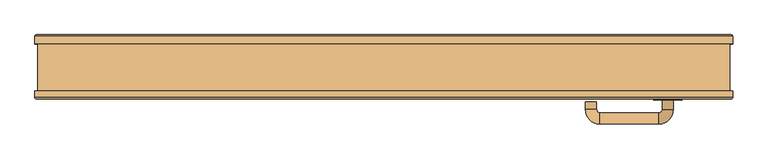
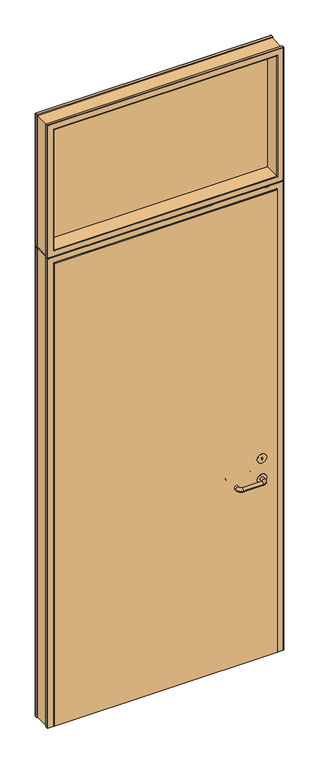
"""IFC4 building model written with IfcOpenShell, lengths in millimetres: door geometry, WOOD LINE_GLASPARTI & ELLUCKA : WOOD LINE_GLASPARTI & ELLUCKA."""

import ifcopenshell
import ifcopenshell.guid

model = None  # the IFC model being written
_history = None  # IfcOwnerHistory: only IFC2X3 demands one
_inside = {}  # id of a spatial element -> (the spatial element, [elements in it])
_under = {}  # id of a project, library or spatial element -> (it, [spatial elements below it])
_declared = {}  # id of a project -> (the project, [libraries it declares])
_typed = {}  # id of a type object -> (the type object, [elements of that type])
_made_of = {}  # id of a material, layer set ... -> (it, [elements and type objects made of it])


def new_model(schema):
    """Start an empty IFC model of exactly this schema.

    Asked for "IFC4X3", IfcOpenShell would pick the latest addendum, in which some entities
    have other attributes; the version numbers below select the first issue.
    IFC2X3 requires an IfcOwnerHistory on every rooted entity: one is made here for all.
    """
    global model, _history
    if schema == "IFC4X3":
        model = ifcopenshell.file(schema_version=(4, 3, 0, 0))
    else:
        model = ifcopenshell.file(schema=schema)
    _inside.clear()
    _under.clear()
    _declared.clear()
    _typed.clear()
    _made_of.clear()
    _history = None
    if model.schema == "IFC2X3":
        org = make("IfcOrganization", Name="unknown")
        user = make(
            "IfcPersonAndOrganization",
            ThePerson=make("IfcPerson", FamilyName="unknown"),
            TheOrganization=org,
        )
        app = make(
            "IfcApplication",
            ApplicationDeveloper=org,
            Version="unknown",
            ApplicationFullName="unknown",
            ApplicationIdentifier="unknown",
        )
        _history = make(
            "IfcOwnerHistory",
            OwningUser=user,
            OwningApplication=app,
            ChangeAction="ADDED",
            CreationDate=0,
        )
    return model


def make(cls, **values):
    """One entity of the class cls with the attributes given. An attribute that is None is left unset."""
    return model.create_entity(
        cls, **{name: value for name, value in values.items() if value is not None}
    )


def rooted(cls, **values):
    """An entity with a GlobalId (a new one), such as an element, a storey or a relation."""
    return make(cls, GlobalId=ifcopenshell.guid.new(), OwnerHistory=_history, **values)


def si_unit(unit_type, name, prefix=None):
    """IfcSIUnit, for example si_unit("LENGTHUNIT", "METRE", prefix="MILLI")."""
    return make("IfcSIUnit", UnitType=unit_type, Prefix=prefix, Name=name)


def assignment(units):
    """IfcUnitAssignment: the units of a project."""
    return None if units is None else make("IfcUnitAssignment", Units=units)


def point(xyz):
    """IfcCartesianPoint."""
    return None if xyz is None else make("IfcCartesianPoint", Coordinates=xyz)


def direction(xyz):
    """IfcDirection."""
    return None if xyz is None else make("IfcDirection", DirectionRatios=xyz)


def frame(location, z_axis=None, x_axis=None):
    """IfcAxis2Placement3D, a coordinate frame: its origin and axes. An axis left out is left unset."""
    return make(
        "IfcAxis2Placement3D",
        Location=point(location),
        Axis=direction(z_axis),
        RefDirection=direction(x_axis),
    )


def frame_2d(location, x_axis=None):
    """IfcAxis2Placement2D, a coordinate frame in the plane: its origin and x axis."""
    return make(
        "IfcAxis2Placement2D", Location=point(location), RefDirection=direction(x_axis)
    )


def origin():
    """The frame at (0, 0, 0) with its axes left unset."""
    return frame((0.0, 0.0, 0.0))


def origin_with_axes():
    """The frame at (0, 0, 0) with the z axis (0, 0, 1) and the x axis (1, 0, 0) written out."""
    return frame((0.0, 0.0, 0.0), z_axis=(0.0, 0.0, 1.0), x_axis=(1.0, 0.0, 0.0))


def place(relative_to, where):
    """IfcLocalPlacement: puts the frame where relative to a parent placement (None: the world)."""
    return make(
        "IfcLocalPlacement", PlacementRelTo=relative_to, RelativePlacement=where
    )


def context(
    kind, dimensions, precision=None, world=None, true_north=None, identifier=None
):
    """IfcGeometricRepresentationContext, for example the 3D "Model" context."""
    return make(
        "IfcGeometricRepresentationContext",
        ContextIdentifier=identifier,
        ContextType=kind,
        CoordinateSpaceDimension=dimensions,
        Precision=precision,
        WorldCoordinateSystem=world,
        TrueNorth=true_north,
    )


def project(units=None, contexts=None):
    """IfcProject with its units and contexts."""
    return rooted(
        "IfcProject",
        Name="project",
        RepresentationContexts=contexts,
        UnitsInContext=assignment(units),
    )


def spatial(cls, under=None, at=None, **own):
    """A site, building, storey or space (cls), placed at a placement, below another one or the project."""
    s = rooted(cls, ObjectPlacement=at, **own)
    if under is not None:
        _under.setdefault(under.id(), (under, []))[1].append(s)
    return s


def polyline(points):
    """IfcPolyline through the points."""
    return make("IfcPolyline", Points=[point(p) for p in points])


def circle_curve(where, radius):
    """IfcCircle in the frame where."""
    return make("IfcCircle", Position=where, Radius=radius)


def ellipse_curve(where, semi_axis1, semi_axis2):
    """IfcEllipse in the frame where."""
    return make(
        "IfcEllipse", Position=where, SemiAxis1=semi_axis1, SemiAxis2=semi_axis2
    )


def trimmed(basis, trim1, trim2, sense, master):
    """IfcTrimmedCurve: the piece of a basis curve between two trims."""
    return make(
        "IfcTrimmedCurve",
        BasisCurve=basis,
        Trim1=trim1,
        Trim2=trim2,
        SenseAgreement=sense,
        MasterRepresentation=master,
    )


def segment(curve, same_sense, transition):
    """IfcCompositeCurveSegment."""
    return make(
        "IfcCompositeCurveSegment",
        Transition=transition,
        SameSense=same_sense,
        ParentCurve=curve,
    )


def composite_curve(segments, self_intersect=None):
    """IfcCompositeCurve: segments joined end to end."""
    return make("IfcCompositeCurve", Segments=segments, SelfIntersect=self_intersect)


def outline(outer, holes=None, kind="AREA"):
    """IfcArbitraryClosedProfileDef: a profile drawn as a closed curve; with holes, ...WithVoids."""
    if holes is None:
        return make("IfcArbitraryClosedProfileDef", ProfileType=kind, OuterCurve=outer)
    return make(
        "IfcArbitraryProfileDefWithVoids",
        ProfileType=kind,
        OuterCurve=outer,
        InnerCurves=holes,
    )


def extrude(swept, where, along, depth):
    """IfcExtrudedAreaSolid: the profile swept, set in the frame where, extruded along a direction by depth."""
    return make(
        "IfcExtrudedAreaSolid",
        SweptArea=swept,
        Position=where,
        ExtrudedDirection=direction(along),
        Depth=depth,
    )


def shape(context_of_items, identifier, shape_type, items):
    """IfcShapeRepresentation: the items that make up one representation, for example the "Body"."""
    return make(
        "IfcShapeRepresentation",
        ContextOfItems=context_of_items,
        RepresentationIdentifier=identifier,
        RepresentationType=shape_type,
        Items=items,
    )


def source(mapping_origin, context_of_items, identifier, shape_type, items):
    """IfcRepresentationMap: a shape defined once, which mapped items show again and again."""
    return make(
        "IfcRepresentationMap",
        MappingOrigin=mapping_origin,
        MappedRepresentation=shape(context_of_items, identifier, shape_type, items),
    )


def transform(
    local_origin,
    x_axis=None,
    y_axis=None,
    z_axis=None,
    scale=None,
    scale2=None,
    scale3=None,
    uniform=True,
):
    """IfcCartesianTransformationOperator3D, or its non-uniform kind. x_axis, y_axis, z_axis: its Axis1, 2, 3."""
    if uniform:
        return make(
            "IfcCartesianTransformationOperator3D",
            Axis1=direction(x_axis),
            Axis2=direction(y_axis),
            LocalOrigin=point(local_origin),
            Scale=scale,
            Axis3=direction(z_axis),
        )
    return make(
        "IfcCartesianTransformationOperator3DnonUniform",
        Axis1=direction(x_axis),
        Axis2=direction(y_axis),
        LocalOrigin=point(local_origin),
        Scale=scale,
        Axis3=direction(z_axis),
        Scale2=scale2,
        Scale3=scale3,
    )


def mapped(mapping_source, mapping_target):
    """IfcMappedItem: shows the shape of a source again, moved by a transform."""
    return make(
        "IfcMappedItem", MappingSource=mapping_source, MappingTarget=mapping_target
    )


def made_of(thing, what):
    """Note that an element or type object is made of a material, layer set ...; save() writes the relation."""
    if what is not None:
        _made_of.setdefault(what.id(), (what, []))[1].append(thing)
    return thing


def element(
    cls,
    number,
    at=None,
    inside=None,
    cuts=None,
    type_object=None,
    material=None,
    context=None,
    identifier="Body",
    shape_type=None,
    held_by="IfcProductDefinitionShape",
    body=None,
    shapes=None,
    **own,
):
    """One element of the class cls, such as IfcWall. Its Tag is "e" and its number.

    at: its placement. inside: the storey or other place that contains it. cuts: it is an
    opening in that element (IfcRelVoidsElement). A single representation is given by context,
    identifier, shape_type and body (its items); several are given by shapes. held_by: the class
    of the entity that holds the representations. save() writes the other relations.
    """
    e = rooted(cls, Tag="e%d" % number, ObjectPlacement=at, **own)
    if body is not None:
        shapes = [shape(context, identifier, shape_type, body)]
    if shapes is not None:
        e.Representation = make(held_by, Representations=shapes)
    if inside is not None:
        _inside.setdefault(inside.id(), (inside, []))[1].append(e)
    if cuts is not None:
        rooted(
            "IfcRelVoidsElement", RelatingBuildingElement=cuts, RelatedOpeningElement=e
        )
    if type_object is not None:
        _typed.setdefault(type_object.id(), (type_object, []))[1].append(e)
    return made_of(e, material)


def aggregate(whole, parts):
    """IfcRelAggregates: a whole, such as a stair, and the parts it consists of."""
    return rooted("IfcRelAggregates", RelatingObject=whole, RelatedObjects=parts)


def save(model, path):
    """Write the relations noted so far, then the file.

    IfcRelAggregates (storeys below a building ...), IfcRelContainedInSpatialStructure (elements
    in a storey), IfcRelDefinesByType, IfcRelAssociatesMaterial and IfcRelDeclares: one each for
    every whole, place, type object, material and project.
    """
    for whole, parts in _under.values():
        aggregate(whole, parts)
    for where, things in _inside.values():
        rooted(
            "IfcRelContainedInSpatialStructure",
            RelatedElements=things,
            RelatingStructure=where,
        )
    for kind, things in _typed.values():
        rooted("IfcRelDefinesByType", RelatedObjects=things, RelatingType=kind)
    for what, things in _made_of.values():
        rooted("IfcRelAssociatesMaterial", RelatedObjects=things, RelatingMaterial=what)
    for by, libraries in _declared.values():
        rooted("IfcRelDeclares", RelatingContext=by, RelatedDefinitions=libraries)
    model.write(path)


def plane_surface(at):
    """IfcPlane: the flat surface through the origin of the frame at, square to its z axis."""
    return make("IfcPlane", Position=at)


def cylinder_surface(at, radius):
    """IfcCylindricalSurface: all points at the distance radius from the z axis of the frame at."""
    return make("IfcCylindricalSurface", Position=at, Radius=radius)


def revolved_surface(curve, axis_point, axis_direction):
    """IfcSurfaceOfRevolution: the curve turned about the line through axis_point along axis_direction."""
    return make(
        "IfcSurfaceOfRevolution",
        SweptCurve=make("IfcArbitraryOpenProfileDef", ProfileType="CURVE", Curve=curve),
        AxisPosition=make("IfcAxis1Placement", Location=point(axis_point), Axis=direction(axis_direction)),
    )


def advanced_brep(points, edges, surfaces, faces):
    """IfcAdvancedBrep: a solid bounded by faces that lie on surfaces and meet in shared edges.

    An edge is (start, end): straight between two places in points (the first is 0);
    or (start, end, curve); or (start, end, curve, False) where it runs against its curve.
    A face is (place in surfaces, loops), or (place, loops, False) where it looks against
    its surface's normal. A loop lists edges by number (the first is 1), with a minus sign
    where the edge is run from its end to its start. The first loop is the outer one.
    """
    corners = [point(p) for p in points]
    vertices = [make("IfcVertexPoint", VertexGeometry=c) for c in corners]
    made = []
    for start, end, *more in edges:
        made.append(
            make(
                "IfcEdgeCurve",
                EdgeStart=vertices[start],
                EdgeEnd=vertices[end],
                EdgeGeometry=more[0] if more else make("IfcPolyline", Points=[corners[start], corners[end]]),
                SameSense=more[1] if len(more) > 1 else True,
            )
        )
    hull = []
    for where, loops, *sense in faces:
        bounds = []
        for j, loop in enumerate(loops):
            ring = [make("IfcOrientedEdge", EdgeElement=made[abs(k) - 1], Orientation=k > 0) for k in loop]
            bounds.append(
                make(
                    "IfcFaceOuterBound" if j == 0 else "IfcFaceBound",
                    Bound=make("IfcEdgeLoop", EdgeList=ring),
                    Orientation=True,
                )
            )
        hull.append(make("IfcAdvancedFace", Bounds=bounds, FaceSurface=surfaces[where], SameSense=sense[0] if sense else True))
    return make("IfcAdvancedBrep", Outer=make("IfcClosedShell", CfsFaces=hull))


def door_6222ef06(model_context):
    return source(origin(), model_context, "Body", "SolidModel", [
        extrude(outline(polyline([(480.4836936, 76.5), (480.4836936, 72.5), (-480.4836936, 72.5), (-480.4836936, 76.5), (480.4836936, 76.5)])), frame((0.0, 0.0, 2119.5163064), z_axis=(0.0, 0.0, 1.0), x_axis=(1.0, 0.0, 0.0)), (0.0, 0.0, 1.0), 556.9673873),
        advanced_brep(
        [(399.0, 5.5388046, 800.0), (415.0, 5.5388046, 800.0), (399.0, -14.9611954, 800.0), (415.0, -14.9611954, 800.0), (305.0, -4.4611954, 800.0), (289.0, -4.4611954, 800.0), (394.0, -35.9611954, 800.0), (394.0, -19.9611954, 800.0), (310.0, -19.9611954, 800.0), (310.0, -35.9611954, 800.0), (289.0, -14.9611954, 800.0), (305.0, -14.9611954, 800.0)],
        [
            (0, 1, circle_curve(frame((407.0, 5.5388046, 800.0), z_axis=(0.0, 1.0, 0.0), x_axis=(1.0, 0.0, 0.0)), 8.0)),
            (1, 0, circle_curve(frame((407.0, 5.5388046, 800.0), z_axis=(0.0, 1.0, 0.0), x_axis=(1.0, 0.0, 0.0)), 8.0)),
            (0, 2),
            (2, 3, circle_curve(frame((407.0, -14.9611954, 800.0), z_axis=(0.0, 1.0, 0.0), x_axis=(1.0, 0.0, 0.0)), 8.0)),
            (3, 1),
            (3, 2, circle_curve(frame((407.0, -14.9611954, 800.0), z_axis=(0.0, 1.0, 0.0), x_axis=(1.0, 0.0, 0.0)), 8.0)),
            (4, 5, circle_curve(frame((297.0, -4.4611954, 800.0), z_axis=(0.0, 1.0, 0.0), x_axis=(-1.0, 0.0, 0.0)), 8.0)),
            (5, 4, circle_curve(frame((297.0, -4.4611954, 800.0), z_axis=(0.0, 1.0, 0.0), x_axis=(-1.0, 0.0, 0.0)), 8.0)),
            (6, 3, circle_curve(frame((394.0, -14.9611954, 800.0), z_axis=(0.0, 0.0, 1.0), x_axis=(1.0, 0.0, 0.0)), 21.0)),
            (2, 7, circle_curve(frame((394.0, -14.9611954, 800.0), z_axis=(0.0, 0.0, -1.0), x_axis=(1.0, 0.0, 0.0)), 5.0)),
            (7, 6, circle_curve(frame((394.0, -27.9611954, 800.0), z_axis=(1.0, 0.0, 0.0), x_axis=(0.0, -1.0, 0.0)), 8.0)),
            (6, 7, circle_curve(frame((394.0, -27.9611954, 800.0), z_axis=(1.0, 0.0, 0.0), x_axis=(0.0, -1.0, 0.0)), 8.0)),
            (7, 8),
            (8, 9, circle_curve(frame((310.0, -27.9611954, 800.0), z_axis=(1.0, 0.0, 0.0), x_axis=(0.0, -1.0, 0.0)), 8.0)),
            (9, 6),
            (9, 8, circle_curve(frame((310.0, -27.9611954, 800.0), z_axis=(1.0, 0.0, 0.0), x_axis=(0.0, -1.0, 0.0)), 8.0)),
            (10, 9, circle_curve(frame((310.0, -14.9611954, 800.0), z_axis=(0.0, 0.0, 1.0), x_axis=(0.0, -1.0, 0.0)), 21.0)),
            (8, 11, circle_curve(frame((310.0, -14.9611954, 800.0), z_axis=(0.0, 0.0, -1.0), x_axis=(0.0, -1.0, 0.0)), 5.0)),
            (11, 10, circle_curve(frame((297.0, -14.9611954, 800.0), z_axis=(0.0, -1.0, 0.0), x_axis=(-1.0, 0.0, 0.0)), 8.0)),
            (10, 11, circle_curve(frame((297.0, -14.9611954, 800.0), z_axis=(0.0, -1.0, 0.0), x_axis=(-1.0, 0.0, 0.0)), 8.0)),
            (11, 4),
            (5, 10),
        ],
        [
            plane_surface(frame((407.0, 5.5388046, 0.0), z_axis=(0.0, 1.0, 0.0), x_axis=(0.0, 0.0, 1.0))),
            cylinder_surface(frame((407.0, 5.5388046, 800.0), z_axis=(0.0, 1.0, 0.0), x_axis=(1.0, 0.0, 0.0)), 8.0),
            plane_surface(frame((297.0, -4.4611954, 0.0), z_axis=(0.0, 1.0, 0.0), x_axis=(0.0, 0.0, 1.0))),
            revolved_surface(trimmed(ellipse_curve(frame((407.0, -14.9611954, 800.0), z_axis=(0.0, 1.0, 0.0), x_axis=(1.0, 0.0, 0.0)), 8.0, 8.0), [point((399.0, -14.9611954, 800.0))], [point((415.0, -14.9611954, 800.0))], True, "CARTESIAN"), (394.0, -14.9611954, 0.0), (0.0, 0.0, -1.0)),
            revolved_surface(trimmed(ellipse_curve(frame((407.0, -14.9611954, 800.0), z_axis=(0.0, 1.0, 0.0), x_axis=(1.0, 0.0, 0.0)), 8.0, 8.0), [point((415.0, -14.9611954, 800.0))], [point((399.0, -14.9611954, 800.0))], True, "CARTESIAN"), (394.0, -14.9611954, 0.0), (0.0, 0.0, -1.0)),
            cylinder_surface(frame((394.0, -27.9611954, 800.0), z_axis=(1.0, 0.0, 0.0), x_axis=(0.0, -1.0, 0.0)), 8.0),
            revolved_surface(trimmed(ellipse_curve(frame((310.0, -27.9611954, 800.0), z_axis=(1.0, 0.0, 0.0), x_axis=(0.0, -1.0, 0.0)), 8.0, 8.0), [point((310.0, -19.9611954, 800.0))], [point((310.0, -35.9611954, 800.0))], True, "CARTESIAN"), (310.0, -14.9611954, 0.0), (0.0, 0.0, -1.0)),
            revolved_surface(trimmed(ellipse_curve(frame((310.0, -27.9611954, 800.0), z_axis=(1.0, 0.0, 0.0), x_axis=(0.0, -1.0, 0.0)), 8.0, 8.0), [point((310.0, -35.9611954, 800.0))], [point((310.0, -19.9611954, 800.0))], True, "CARTESIAN"), (310.0, -14.9611954, 0.0), (0.0, 0.0, -1.0)),
            cylinder_surface(frame((297.0, -14.9611954, 800.0), z_axis=(0.0, -1.0, 0.0), x_axis=(-1.0, 0.0, 0.0)), 8.0),
        ],
        [
            (0, [[1, 2]]),
            (1, [[-1, 3, 4, 5]]),
            (1, [[-2, -5, 6, -3]]),
            (2, [[7, 8]]),
            (3, [[9, -4, 10, 11]]),
            (4, [[-10, -6, -9, 12]]),
            (5, [[-11, 13, 14, 15]]),
            (5, [[-12, -15, 16, -13]]),
            (6, [[17, -14, 18, 19]]),
            (7, [[-18, -16, -17, 20]]),
            (8, [[-19, 21, -8, 22]]),
            (8, [[-20, -22, -7, -21]]),
        ],
    ),
        extrude(outline(composite_curve([segment(trimmed(circle_curve(frame_2d((800.0, 407.0)), 20.0), [point((800.0, 387.0))], [point((800.0, 427.0))], False, "CARTESIAN"), True, "CONTINUOUS"), segment(trimmed(circle_curve(frame_2d((800.0, 407.0)), 20.0), [point((800.0, 427.0))], [point((800.0, 387.0))], False, "CARTESIAN"), True, "CONTINUOUS")], self_intersect=False)), frame((0.0, -1.6149272, 0.0), z_axis=(0.0, 1.0, 0.0), x_axis=(0.0, 0.0, 1.0)), (0.0, 0.0, 1.0), 1.6149272),
        extrude(outline(composite_curve([segment(trimmed(circle_curve(frame_2d((890.0, 407.0)), 20.0), [point((890.0, 387.0))], [point((890.0, 427.0))], False, "CARTESIAN"), True, "CONTINUOUS"), segment(trimmed(circle_curve(frame_2d((890.0, 407.0)), 20.0), [point((890.0, 427.0))], [point((890.0, 387.0))], False, "CARTESIAN"), True, "CONTINUOUS")], self_intersect=False), holes=[composite_curve([segment(trimmed(circle_curve(frame_2d((892.0, 407.0)), 2.5), [point((889.7087122, 406.0))], [point((889.7087122, 408.0))], True, "CARTESIAN"), True, "CONTINUOUS"), segment(polyline([(889.7087122, 408.0), (884.5, 408.0), (884.5, 406.0), (889.7087122, 406.0)]), True, "CONTINUOUS")], self_intersect=False)]), frame((0.0, -1.6149272, 0.0), z_axis=(0.0, 1.0, 0.0), x_axis=(0.0, 0.0, 1.0)), (0.0, 0.0, 1.0), 1.6149272),
        advanced_brep(
        [(-472.0, 90.0, 2128.0), (-474.0, 92.0, 2126.0), (-474.0, 92.0, 2670.0), (-472.0, 90.0, 2668.0), (-472.0, 78.0, 2128.0), (-472.0, 78.0, 2668.0), (-474.0, 0.0, 2126.0), (-472.0, 2.0, 2128.0), (-472.0, 2.0, 2668.0), (-474.0, 0.0, 2670.0), (-500.0, 90.0, 2100.0), (-500.0, 79.0, 2100.0), (-500.0, 79.0, 2696.0), (-500.0, 90.0, 2696.0), (-498.0, 92.0, 2102.0), (-498.0, 92.0, 2694.0), (472.0, 90.0, 2668.0), (474.0, 92.0, 2670.0), (474.0, 92.0, 2126.0), (472.0, 90.0, 2128.0), (472.0, 78.0, 2668.0), (472.0, 78.0, 2128.0), (474.0, 0.0, 2670.0), (472.0, 2.0, 2668.0), (472.0, 2.0, 2128.0), (474.0, 0.0, 2126.0), (500.0, 90.0, 2696.0), (500.0, 79.0, 2696.0), (500.0, 79.0, 2100.0), (500.0, 90.0, 2100.0), (498.0, 92.0, 2694.0), (498.0, 92.0, 2102.0), (-498.0, 0.0, 2102.0), (498.0, 0.0, 2102.0), (498.0, 0.0, 2694.0), (-498.0, 0.0, 2694.0), (500.0, 2.0, 2100.0), (-500.0, 2.0, 2100.0), (500.0, 11.0, 2100.0), (-500.0, 11.0, 2100.0), (496.0, 79.0, 2104.0), (496.0, 11.0, 2104.0), (-496.0, 11.0, 2104.0), (-496.0, 79.0, 2104.0), (-500.0, 2.0, 2696.0), (-500.0, 11.0, 2696.0), (-496.0, 11.0, 2692.0), (-496.0, 79.0, 2692.0), (500.0, 2.0, 2696.0), (500.0, 11.0, 2696.0), (496.0, 11.0, 2692.0), (496.0, 79.0, 2692.0), (482.4836936, 71.0, 2117.5163064), (482.4836936, 78.0, 2117.5163064), (-482.4836936, 78.0, 2117.5163064), (-482.4836936, 71.0, 2117.5163064), (472.0, 71.0, 2128.0), (-472.0, 71.0, 2128.0), (-482.4836936, 78.0, 2678.4836936), (-482.4836936, 71.0, 2678.4836936), (-472.0, 71.0, 2668.0), (482.4836936, 78.0, 2678.4836936), (482.4836936, 71.0, 2678.4836936), (472.0, 71.0, 2668.0)],
        [
            (0, 1, ellipse_curve(frame((-474.0, 90.0, 2126.0), z_axis=(-0.7071067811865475, 0.0, 0.7071067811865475), x_axis=(-0.7071067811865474, 0.0, -0.7071067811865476)), 2.8284271, 2.0)),
            (1, 2),
            (2, 3, ellipse_curve(frame((-474.0, 90.0, 2670.0), z_axis=(-0.7071067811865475, 0.0, -0.7071067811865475), x_axis=(0.7071067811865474, 0.0, -0.7071067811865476)), 2.8284271, 2.0)),
            (3, 0),
            (4, 0),
            (3, 5),
            (5, 4),
            (6, 7, ellipse_curve(frame((-474.0, 2.0, 2126.0), z_axis=(-0.7071067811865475, 0.0, 0.7071067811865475), x_axis=(-0.7071067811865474, 0.0, -0.7071067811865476)), 2.8284271, 2.0)),
            (7, 8),
            (8, 9, ellipse_curve(frame((-474.0, 2.0, 2670.0), z_axis=(-0.7071067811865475, 0.0, -0.7071067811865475), x_axis=(0.7071067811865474, 0.0, -0.7071067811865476)), 2.8284271, 2.0)),
            (9, 6),
            (10, 11),
            (11, 12),
            (12, 13),
            (13, 10),
            (14, 10, ellipse_curve(frame((-498.0, 90.0, 2102.0), z_axis=(-0.7071067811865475, 0.0, 0.7071067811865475), x_axis=(-0.7071067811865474, 0.0, -0.7071067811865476)), 2.8284271, 2.0)),
            (13, 15, ellipse_curve(frame((-498.0, 90.0, 2694.0), z_axis=(-0.7071067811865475, 0.0, -0.7071067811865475), x_axis=(0.7071067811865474, 0.0, -0.7071067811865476)), 2.8284271, 2.0)),
            (15, 14),
            (16, 17, ellipse_curve(frame((474.0, 90.0, 2670.0), z_axis=(0.7071067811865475, 0.0, -0.7071067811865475), x_axis=(0.7071067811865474, 0.0, 0.7071067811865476)), 2.8284271, 2.0)),
            (17, 18),
            (18, 19, ellipse_curve(frame((474.0, 90.0, 2126.0), z_axis=(0.7071067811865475, 0.0, 0.7071067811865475), x_axis=(-0.7071067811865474, 0.0, 0.7071067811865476)), 2.8284271, 2.0)),
            (19, 16),
            (20, 16),
            (19, 21),
            (21, 20),
            (22, 23, ellipse_curve(frame((474.0, 2.0, 2670.0), z_axis=(0.7071067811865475, 0.0, -0.7071067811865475), x_axis=(0.7071067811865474, 0.0, 0.7071067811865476)), 2.8284271, 2.0)),
            (23, 24),
            (24, 25, ellipse_curve(frame((474.0, 2.0, 2126.0), z_axis=(0.7071067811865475, 0.0, 0.7071067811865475), x_axis=(-0.7071067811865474, 0.0, 0.7071067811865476)), 2.8284271, 2.0)),
            (25, 22),
            (26, 27),
            (27, 28),
            (28, 29),
            (29, 26),
            (30, 26, ellipse_curve(frame((498.0, 90.0, 2694.0), z_axis=(0.7071067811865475, 0.0, -0.7071067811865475), x_axis=(0.7071067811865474, 0.0, 0.7071067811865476)), 2.8284271, 2.0)),
            (29, 31, ellipse_curve(frame((498.0, 90.0, 2102.0), z_axis=(0.7071067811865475, 0.0, 0.7071067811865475), x_axis=(-0.7071067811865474, 0.0, 0.7071067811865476)), 2.8284271, 2.0)),
            (31, 30),
            (2, 17),
            (16, 3),
            (20, 5),
            (8, 23),
            (22, 9),
            (12, 27),
            (26, 13),
            (30, 15),
            (18, 1),
            (0, 19),
            (4, 21),
            (24, 7),
            (6, 25),
            (32, 33),
            (33, 34),
            (34, 35),
            (35, 32),
            (28, 11),
            (10, 29),
            (14, 31),
            (36, 33, ellipse_curve(frame((498.0, 2.0, 2102.0), z_axis=(-0.7071067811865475, 0.0, -0.7071067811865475), x_axis=(0.7071067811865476, 0.0, -0.7071067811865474)), 2.8284271, 2.0)),
            (32, 37, ellipse_curve(frame((-498.0, 2.0, 2102.0), z_axis=(0.7071067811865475, 0.0, -0.7071067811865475), x_axis=(0.7071067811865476, 0.0, 0.7071067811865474)), 2.8284271, 2.0)),
            (37, 36),
            (38, 36),
            (37, 39),
            (39, 38),
            (40, 41),
            (41, 42),
            (42, 43),
            (43, 40),
            (35, 44, ellipse_curve(frame((-498.0, 2.0, 2694.0), z_axis=(-0.7071067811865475, 0.0, -0.7071067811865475), x_axis=(0.7071067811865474, 0.0, -0.7071067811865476)), 2.8284271, 2.0)),
            (44, 37),
            (44, 45),
            (45, 39),
            (42, 46),
            (46, 47),
            (47, 43),
            (34, 48, ellipse_curve(frame((498.0, 2.0, 2694.0), z_axis=(-0.7071067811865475, 0.0, 0.7071067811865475), x_axis=(-0.7071067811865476, 0.0, -0.7071067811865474)), 2.8284271, 2.0)),
            (48, 44),
            (48, 49),
            (49, 45),
            (46, 50),
            (50, 51),
            (51, 47),
            (36, 48),
            (38, 49),
            (41, 50),
            (40, 51),
            (52, 53),
            (53, 54),
            (54, 55),
            (55, 52),
            (24, 56),
            (56, 57),
            (57, 7),
            (54, 58),
            (58, 59),
            (59, 55),
            (57, 60),
            (60, 8),
            (58, 61),
            (61, 62),
            (62, 59),
            (60, 63),
            (63, 23),
            (53, 61),
            (52, 62),
            (56, 63),
        ],
        [
            cylinder_surface(frame((-474.0, 90.0, 2100.0), z_axis=(0.0, 0.0, -1.0), x_axis=(0.0, -1.0, 0.0)), 2.0),
            plane_surface(frame((-472.0, 90.0, 2128.0), z_axis=(1.0, 0.0, 0.0), x_axis=(0.0, 0.0, 1.0))),
            cylinder_surface(frame((-474.0, 2.0, 2100.0), z_axis=(0.0, 0.0, -1.0), x_axis=(0.0, -1.0, 0.0)), 2.0),
            plane_surface(frame((-500.0, 79.0, 2100.0), z_axis=(-1.0, 0.0, 0.0), x_axis=(0.0, 0.0, 1.0))),
            cylinder_surface(frame((-498.0, 90.0, 2100.0), z_axis=(0.0, 0.0, -1.0), x_axis=(0.0, -1.0, 0.0)), 2.0),
            cylinder_surface(frame((474.0, 90.0, 2696.0), z_axis=(0.0, 0.0, 1.0), x_axis=(0.0, -1.0, 0.0)), 2.0),
            plane_surface(frame((472.0, 90.0, 2668.0), z_axis=(-1.0, 0.0, 0.0), x_axis=(0.0, 0.0, -1.0))),
            cylinder_surface(frame((474.0, 2.0, 2696.0), z_axis=(0.0, 0.0, 1.0), x_axis=(0.0, -1.0, 0.0)), 2.0),
            plane_surface(frame((500.0, 79.0, 2696.0), z_axis=(1.0, 0.0, 0.0), x_axis=(0.0, 0.0, -1.0))),
            cylinder_surface(frame((498.0, 90.0, 2696.0), z_axis=(0.0, 0.0, 1.0), x_axis=(0.0, -1.0, 0.0)), 2.0),
            cylinder_surface(frame((-500.0, 90.0, 2670.0), z_axis=(-1.0, 0.0, 0.0), x_axis=(0.0, -1.0, 0.0)), 2.0),
            plane_surface(frame((-472.0, 90.0, 2668.0), z_axis=(0.0, 0.0, -1.0), x_axis=(1.0, 0.0, 0.0))),
            cylinder_surface(frame((-500.0, 2.0, 2670.0), z_axis=(-1.0, 0.0, 0.0), x_axis=(0.0, -1.0, 0.0)), 2.0),
            plane_surface(frame((-500.0, 79.0, 2696.0), z_axis=(0.0, 0.0, 1.0), x_axis=(1.0, 0.0, 0.0))),
            cylinder_surface(frame((-500.0, 90.0, 2694.0), z_axis=(-1.0, 0.0, 0.0), x_axis=(0.0, -1.0, 0.0)), 2.0),
            cylinder_surface(frame((500.0, 90.0, 2126.0), z_axis=(1.0, 0.0, 0.0), x_axis=(0.0, -1.0, 0.0)), 2.0),
            plane_surface(frame((472.0, 90.0, 2128.0), z_axis=(0.0, 0.0, 1.0), x_axis=(-1.0, 0.0, 0.0))),
            cylinder_surface(frame((500.0, 2.0, 2126.0), z_axis=(1.0, 0.0, 0.0), x_axis=(0.0, -1.0, 0.0)), 2.0),
            plane_surface(frame((474.0, 0.0, 2126.0), z_axis=(0.0, -1.0, 0.0), x_axis=(-1.0, 0.0, 0.0))),
            plane_surface(frame((500.0, 79.0, 2100.0), z_axis=(0.0, 0.0, -1.0), x_axis=(-1.0, 0.0, 0.0))),
            cylinder_surface(frame((500.0, 90.0, 2102.0), z_axis=(1.0, 0.0, 0.0), x_axis=(0.0, -1.0, 0.0)), 2.0),
            plane_surface(frame((498.0, 92.0, 2102.0), z_axis=(0.0, 1.0, 0.0), x_axis=(-1.0, 0.0, 0.0))),
            cylinder_surface(frame((500.0, 2.0, 2102.0), z_axis=(1.0, 0.0, 0.0), x_axis=(0.0, -1.0, 0.0)), 2.0),
            plane_surface(frame((500.0, 2.0, 2100.0), z_axis=(0.0, 0.0, -1.0), x_axis=(-1.0, 0.0, 0.0))),
            plane_surface(frame((496.0, 11.0, 2104.0), z_axis=(0.0, 0.0, -1.0), x_axis=(-1.0, 0.0, 0.0))),
            cylinder_surface(frame((-498.0, 2.0, 2100.0), z_axis=(0.0, 0.0, -1.0), x_axis=(0.0, -1.0, 0.0)), 2.0),
            plane_surface(frame((-500.0, 2.0, 2100.0), z_axis=(-1.0, 0.0, 0.0), x_axis=(0.0, 0.0, 1.0))),
            plane_surface(frame((-496.0, 11.0, 2104.0), z_axis=(-1.0, 0.0, 0.0), x_axis=(0.0, 0.0, 1.0))),
            cylinder_surface(frame((-500.0, 2.0, 2694.0), z_axis=(-1.0, 0.0, 0.0), x_axis=(0.0, -1.0, 0.0)), 2.0),
            plane_surface(frame((-500.0, 2.0, 2696.0), z_axis=(0.0, 0.0, 1.0), x_axis=(1.0, 0.0, 0.0))),
            plane_surface(frame((-496.0, 11.0, 2692.0), z_axis=(0.0, 0.0, 1.0), x_axis=(1.0, 0.0, 0.0))),
            cylinder_surface(frame((498.0, 2.0, 2696.0), z_axis=(0.0, 0.0, 1.0), x_axis=(0.0, -1.0, 0.0)), 2.0),
            plane_surface(frame((500.0, 2.0, 2696.0), z_axis=(1.0, 0.0, 0.0), x_axis=(0.0, 0.0, -1.0))),
            plane_surface(frame((500.0, 11.0, 2696.0), z_axis=(0.0, 1.0, 0.0), x_axis=(0.0, 0.0, -1.0))),
            plane_surface(frame((496.0, 11.0, 2692.0), z_axis=(1.0, 0.0, 0.0), x_axis=(0.0, 0.0, -1.0))),
            plane_surface(frame((496.0, 79.0, 2692.0), z_axis=(0.0, -1.0, 0.0), x_axis=(0.0, 0.0, -1.0))),
            plane_surface(frame((482.4836936, 78.0, 2117.5163064), z_axis=(0.0, 0.0, 1.0), x_axis=(-1.0, 0.0, 0.0))),
            plane_surface(frame((472.0, 71.0, 2128.0), z_axis=(0.0, 0.0, 1.0), x_axis=(-1.0, 0.0, 0.0))),
            plane_surface(frame((-482.4836936, 78.0, 2117.5163064), z_axis=(1.0, 0.0, 0.0), x_axis=(0.0, 0.0, 1.0))),
            plane_surface(frame((-472.0, 71.0, 2128.0), z_axis=(1.0, 0.0, 0.0), x_axis=(0.0, 0.0, 1.0))),
            plane_surface(frame((-482.4836936, 78.0, 2678.4836936), z_axis=(0.0, 0.0, -1.0), x_axis=(1.0, 0.0, 0.0))),
            plane_surface(frame((-472.0, 71.0, 2668.0), z_axis=(0.0, 0.0, -1.0), x_axis=(1.0, 0.0, 0.0))),
            plane_surface(frame((472.0, 78.0, 2668.0), z_axis=(0.0, -1.0, 0.0), x_axis=(0.0, 0.0, -1.0))),
            plane_surface(frame((482.4836936, 78.0, 2678.4836936), z_axis=(-1.0, 0.0, 0.0), x_axis=(0.0, 0.0, -1.0))),
            plane_surface(frame((482.4836936, 71.0, 2678.4836936), z_axis=(0.0, 1.0, 0.0), x_axis=(0.0, 0.0, -1.0))),
            plane_surface(frame((472.0, 71.0, 2668.0), z_axis=(-1.0, 0.0, 0.0), x_axis=(0.0, 0.0, -1.0))),
        ],
        [
            (0, [[1, 2, 3, 4]]),
            (1, [[5, -4, 6, 7]]),
            (2, [[8, 9, 10, 11]]),
            (3, [[12, 13, 14, 15]]),
            (4, [[16, -15, 17, 18]]),
            (5, [[19, 20, 21, 22]]),
            (6, [[23, -22, 24, 25]]),
            (7, [[26, 27, 28, 29]]),
            (8, [[30, 31, 32, 33]]),
            (9, [[34, -33, 35, 36]]),
            (10, [[-3, 37, -19, 38]]),
            (11, [[-6, -38, -23, 39]]),
            (12, [[-10, 40, -26, 41]]),
            (13, [[-14, 42, -30, 43]]),
            (14, [[-17, -43, -34, 44]]),
            (15, [[-21, 45, -1, 46]]),
            (16, [[-24, -46, -5, 47]]),
            (17, [[-28, 48, -8, 49]]),
            (18, [[50, 51, 52, 53], [-11, -41, -29, -49]]),
            (19, [[-32, 54, -12, 55]]),
            (20, [[-35, -55, -16, 56]]),
            (21, [[-18, -44, -36, -56], [-45, -20, -37, -2]]),
            (22, [[57, -50, 58, 59]]),
            (23, [[60, -59, 61, 62]]),
            (24, [[63, 64, 65, 66]]),
            (25, [[-58, -53, 67, 68]]),
            (26, [[-61, -68, 69, 70]]),
            (27, [[-65, 71, 72, 73]]),
            (28, [[-67, -52, 74, 75]]),
            (29, [[-69, -75, 76, 77]]),
            (30, [[-72, 78, 79, 80]]),
            (31, [[-74, -51, -57, 81]]),
            (32, [[-76, -81, -60, 82]]),
            (33, [[-70, -77, -82, -62], [83, -78, -71, -64]]),
            (34, [[-79, -83, -63, 84]]),
            (35, [[-31, -42, -13, -54], [-73, -80, -84, -66]]),
            (36, [[85, 86, 87, 88]]),
            (37, [[89, 90, 91, -48]]),
            (38, [[-87, 92, 93, 94]]),
            (39, [[-91, 95, 96, -9]]),
            (40, [[-93, 97, 98, 99]]),
            (41, [[-96, 100, 101, -40]]),
            (42, [[102, -97, -92, -86], [-7, -39, -25, -47]]),
            (43, [[-98, -102, -85, 103]]),
            (44, [[-94, -99, -103, -88], [104, -100, -95, -90]]),
            (45, [[-101, -104, -89, -27]]),
        ],
    ),
        extrude(outline(polyline([(472.0, 0.0), (-472.0, 0.0), (-472.0, 40.0), (472.0, 40.0), (472.0, 0.0)])), origin_with_axes(), (0.0, 0.0, 1.0), 2069.0),
        advanced_brep(
        [(-498.0, 92.0, 0.0), (-474.0, 92.0, 0.0), (-472.0, 90.0, 0.0), (-472.0, 87.0, 0.0), (-461.0361518, 87.0, 0.0), (-459.0361518, 85.0, 0.0), (-459.0, 45.0, 0.0), (-461.0361518, 43.0, 0.0), (-472.0, 43.0, 0.0), (-472.0, 2.0, 0.0), (-474.0, 0.0, 0.0), (-498.0, 0.0, 0.0), (-500.0, 2.0, 0.0), (-500.0, 11.0, 0.0), (-496.0, 11.0, 0.0), (-496.0, 79.0, 0.0), (-500.0, 79.0, 0.0), (-500.0, 90.0, 0.0), (498.0, 92.0, 0.0), (500.0, 90.0, 0.0), (500.0, 79.0, 0.0), (496.0, 79.0, 0.0), (496.0, 11.0, 0.0), (500.0, 11.0, 0.0), (500.0, 2.0, 0.0), (498.0, 0.0, 0.0), (474.0, 0.0, 0.0), (472.0, 2.0, 0.0), (472.0, 43.0, 0.0), (461.0361518, 43.0, 0.0), (459.0361518, 45.0, 0.0), (459.0, 85.0, 0.0), (461.0361518, 87.0, 0.0), (472.0, 87.0, 0.0), (472.0, 90.0, 0.0), (474.0, 92.0, 0.0), (-498.0, 92.0, 2098.0), (498.0, 92.0, 2098.0), (474.0, 92.0, 2074.0), (-474.0, 92.0, 2074.0), (-472.0, 90.0, 2072.0), (-472.0, 87.0, 2072.0), (472.0, 87.0, 2072.0), (461.0361518, 87.0, 2061.0361518), (-461.0361518, 87.0, 2061.0361518), (-459.0361518, 85.0, 2059.0361518), (-459.0, 45.0, 2059.0), (-461.0361518, 43.0, 2061.0361518), (461.0361518, 43.0, 2061.0361518), (472.0, 43.0, 2072.0), (-472.0, 43.0, 2072.0), (-472.0, 2.0, 2072.0), (-474.0, 0.0, 2074.0), (474.0, 0.0, 2074.0), (498.0, 0.0, 2098.0), (-498.0, 0.0, 2098.0), (-500.0, 2.0, 2100.0), (-500.0, 11.0, 2100.0), (500.0, 11.0, 2100.0), (496.0, 11.0, 2096.0), (-496.0, 11.0, 2096.0), (-496.0, 79.0, 2096.0), (496.0, 79.0, 2096.0), (500.0, 79.0, 2100.0), (-500.0, 79.0, 2100.0), (-500.0, 90.0, 2100.0), (472.0, 90.0, 2072.0), (459.0361518, 85.0, 2059.0361518), (459.0, 45.0, 2059.0), (472.0, 2.0, 2072.0), (500.0, 2.0, 2100.0), (500.0, 90.0, 2100.0)],
        [
            (0, 1),
            (1, 2, circle_curve(frame((-474.0, 90.0, 0.0), z_axis=(0.0, 0.0, -1.0), x_axis=(0.0, -1.0, 0.0)), 2.0)),
            (2, 3),
            (3, 4),
            (4, 5, circle_curve(frame((-461.0361518, 85.0, 0.0), z_axis=(0.0, 0.0, -1.0), x_axis=(0.0, -1.0, 0.0)), 2.0)),
            (5, 6),
            (6, 7, circle_curve(frame((-461.0361518, 45.0, 0.0), z_axis=(0.0, 0.0, -1.0), x_axis=(0.0, -1.0, 0.0)), 2.0)),
            (7, 8),
            (8, 9),
            (9, 10, circle_curve(frame((-474.0, 2.0, 0.0), z_axis=(0.0, 0.0, -1.0), x_axis=(0.0, -1.0, 0.0)), 2.0)),
            (10, 11),
            (11, 12, circle_curve(frame((-498.0, 2.0, 0.0), z_axis=(0.0, 0.0, -1.0), x_axis=(0.0, -1.0, 0.0)), 2.0)),
            (12, 13),
            (13, 14),
            (14, 15),
            (15, 16),
            (16, 17),
            (17, 0, circle_curve(frame((-498.0, 90.0, 0.0), z_axis=(0.0, 0.0, -1.0), x_axis=(0.0, -1.0, 0.0)), 2.0)),
            (18, 19, circle_curve(frame((498.0, 90.0, 0.0), z_axis=(0.0, 0.0, -1.0), x_axis=(0.0, -1.0, 0.0)), 2.0)),
            (19, 20),
            (20, 21),
            (21, 22),
            (22, 23),
            (23, 24),
            (24, 25, circle_curve(frame((498.0, 2.0, 0.0), z_axis=(0.0, 0.0, -1.0), x_axis=(0.0, -1.0, 0.0)), 2.0)),
            (25, 26),
            (26, 27, circle_curve(frame((474.0, 2.0, 0.0), z_axis=(0.0, 0.0, -1.0), x_axis=(0.0, -1.0, 0.0)), 2.0)),
            (27, 28),
            (28, 29),
            (29, 30, circle_curve(frame((461.0361518, 45.0, 0.0), z_axis=(0.0, 0.0, -1.0), x_axis=(0.0, -1.0, 0.0)), 2.0)),
            (30, 31),
            (31, 32, circle_curve(frame((461.0361518, 85.0, 0.0), z_axis=(0.0, 0.0, -1.0), x_axis=(0.0, -1.0, 0.0)), 2.0)),
            (32, 33),
            (33, 34),
            (34, 35, circle_curve(frame((474.0, 90.0, 0.0), z_axis=(0.0, 0.0, -1.0), x_axis=(0.0, -1.0, 0.0)), 2.0)),
            (35, 18),
            (0, 36),
            (36, 37),
            (37, 18),
            (35, 38),
            (38, 39),
            (39, 1),
            (39, 40, ellipse_curve(frame((-474.0, 90.0, 2074.0), z_axis=(-0.7071067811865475, 0.0, -0.7071067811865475), x_axis=(0.7071067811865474, 0.0, -0.7071067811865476)), 2.8284271, 2.0)),
            (40, 2),
            (40, 41),
            (41, 3),
            (41, 42),
            (42, 33),
            (32, 43),
            (43, 44),
            (44, 4),
            (44, 45, ellipse_curve(frame((-461.0361518, 85.0, 2061.0361518), z_axis=(-0.7071067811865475, 0.0, -0.7071067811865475), x_axis=(0.7071067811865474, 0.0, -0.7071067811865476)), 2.8284271, 2.0)),
            (45, 5),
            (45, 46),
            (46, 6),
            (46, 47, ellipse_curve(frame((-461.0361518, 45.0, 2061.0361518), z_axis=(-0.7071067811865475, 0.0, -0.7071067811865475), x_axis=(0.7071067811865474, 0.0, -0.7071067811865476)), 2.8284271, 2.0)),
            (47, 7),
            (47, 48),
            (48, 29),
            (28, 49),
            (49, 50),
            (50, 8),
            (50, 51),
            (51, 9),
            (51, 52, ellipse_curve(frame((-474.0, 2.0, 2074.0), z_axis=(-0.7071067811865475, 0.0, -0.7071067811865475), x_axis=(0.7071067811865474, 0.0, -0.7071067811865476)), 2.8284271, 2.0)),
            (52, 10),
            (52, 53),
            (53, 26),
            (25, 54),
            (54, 55),
            (55, 11),
            (55, 56, ellipse_curve(frame((-498.0, 2.0, 2098.0), z_axis=(-0.7071067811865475, 0.0, -0.7071067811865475), x_axis=(0.7071067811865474, 0.0, -0.7071067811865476)), 2.8284271, 2.0)),
            (56, 12),
            (56, 57),
            (57, 13),
            (57, 58),
            (58, 23),
            (22, 59),
            (59, 60),
            (60, 14),
            (60, 61),
            (61, 15),
            (61, 62),
            (62, 21),
            (20, 63),
            (63, 64),
            (64, 16),
            (64, 65),
            (65, 17),
            (65, 36, ellipse_curve(frame((-498.0, 90.0, 2098.0), z_axis=(-0.7071067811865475, 0.0, -0.7071067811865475), x_axis=(0.7071067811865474, 0.0, -0.7071067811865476)), 2.8284271, 2.0)),
            (38, 66, ellipse_curve(frame((474.0, 90.0, 2074.0), z_axis=(-0.7071067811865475, 0.0, 0.7071067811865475), x_axis=(-0.7071067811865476, 0.0, -0.7071067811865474)), 2.8284271, 2.0)),
            (66, 40),
            (66, 42),
            (43, 67, ellipse_curve(frame((461.0361518, 85.0, 2061.0361518), z_axis=(-0.7071067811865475, 0.0, 0.7071067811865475), x_axis=(-0.7071067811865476, 0.0, -0.7071067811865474)), 2.8284271, 2.0)),
            (67, 45),
            (67, 68),
            (68, 46),
            (68, 48, ellipse_curve(frame((461.0361518, 45.0, 2061.0361518), z_axis=(-0.7071067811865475, 0.0, 0.7071067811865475), x_axis=(-0.7071067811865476, 0.0, -0.7071067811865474)), 2.8284271, 2.0)),
            (49, 69),
            (69, 51),
            (69, 53, ellipse_curve(frame((474.0, 2.0, 2074.0), z_axis=(-0.7071067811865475, 0.0, 0.7071067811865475), x_axis=(-0.7071067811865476, 0.0, -0.7071067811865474)), 2.8284271, 2.0)),
            (54, 70, ellipse_curve(frame((498.0, 2.0, 2098.0), z_axis=(-0.7071067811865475, 0.0, 0.7071067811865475), x_axis=(-0.7071067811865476, 0.0, -0.7071067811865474)), 2.8284271, 2.0)),
            (70, 56),
            (70, 58),
            (59, 62),
            (63, 71),
            (71, 65),
            (71, 37, ellipse_curve(frame((498.0, 90.0, 2098.0), z_axis=(-0.7071067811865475, 0.0, 0.7071067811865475), x_axis=(-0.7071067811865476, 0.0, -0.7071067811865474)), 2.8284271, 2.0)),
            (34, 66),
            (31, 67),
            (30, 68),
            (27, 69),
            (24, 70),
            (19, 71),
        ],
        [
            plane_surface(frame((-500.0, 0.0, 0.0), z_axis=(0.0, 0.0, -1.0), x_axis=(0.0, -1.0, 0.0))),
            plane_surface(frame((500.0, 0.0, 0.0), z_axis=(0.0, 0.0, -1.0), x_axis=(0.0, -1.0, 0.0))),
            plane_surface(frame((-498.0, 92.0, 0.0), z_axis=(0.0, 1.0, 0.0), x_axis=(0.0, 0.0, 1.0))),
            cylinder_surface(frame((-474.0, 90.0, 0.0), z_axis=(0.0, 0.0, -1.0), x_axis=(0.0, -1.0, 0.0)), 2.0),
            plane_surface(frame((-472.0, 90.0, 0.0), z_axis=(1.0, 0.0, 0.0), x_axis=(0.0, 0.0, 1.0))),
            plane_surface(frame((-472.0, 87.0, 0.0), z_axis=(0.0, 1.0, 0.0), x_axis=(0.0, 0.0, 1.0))),
            cylinder_surface(frame((-461.0361518, 85.0, 0.0), z_axis=(0.0, 0.0, -1.0), x_axis=(0.0, -1.0, 0.0)), 2.0),
            plane_surface(frame((-459.0, 85.0, 0.0), z_axis=(1.0, 0.0, 0.0), x_axis=(0.0, 0.0, 1.0))),
            cylinder_surface(frame((-461.0361518, 45.0, 0.0), z_axis=(0.0, 0.0, -1.0), x_axis=(0.0, -1.0, 0.0)), 2.0),
            plane_surface(frame((-461.0361518, 43.0, 0.0), z_axis=(0.0, -1.0, 0.0), x_axis=(0.0, 0.0, 1.0))),
            plane_surface(frame((-472.0, 43.0, 0.0), z_axis=(1.0, 0.0, 0.0), x_axis=(0.0, 0.0, 1.0))),
            cylinder_surface(frame((-474.0, 2.0, 0.0), z_axis=(0.0, 0.0, -1.0), x_axis=(0.0, -1.0, 0.0)), 2.0),
            plane_surface(frame((-474.0, 0.0, 0.0), z_axis=(0.0, -1.0, 0.0), x_axis=(0.0, 0.0, 1.0))),
            cylinder_surface(frame((-498.0, 2.0, 0.0), z_axis=(0.0, 0.0, -1.0), x_axis=(0.0, -1.0, 0.0)), 2.0),
            plane_surface(frame((-500.0, 2.0, 0.0), z_axis=(-1.0, 0.0, 0.0), x_axis=(0.0, 0.0, 1.0))),
            plane_surface(frame((-500.0, 11.0, 0.0), z_axis=(0.0, 1.0, 0.0), x_axis=(0.0, 0.0, 1.0))),
            plane_surface(frame((-496.0, 11.0, 0.0), z_axis=(-1.0, 0.0, 0.0), x_axis=(0.0, 0.0, 1.0))),
            plane_surface(frame((-496.0, 79.0, 0.0), z_axis=(0.0, -1.0, 0.0), x_axis=(0.0, 0.0, 1.0))),
            plane_surface(frame((-500.0, 79.0, 0.0), z_axis=(-1.0, 0.0, 0.0), x_axis=(0.0, 0.0, 1.0))),
            cylinder_surface(frame((-498.0, 90.0, 0.0), z_axis=(0.0, 0.0, -1.0), x_axis=(0.0, -1.0, 0.0)), 2.0),
            cylinder_surface(frame((-500.0, 90.0, 2074.0), z_axis=(-1.0, 0.0, 0.0), x_axis=(0.0, -1.0, 0.0)), 2.0),
            plane_surface(frame((-472.0, 90.0, 2072.0), z_axis=(0.0, 0.0, -1.0), x_axis=(1.0, 0.0, 0.0))),
            cylinder_surface(frame((-500.0, 85.0, 2061.0361518), z_axis=(-1.0, 0.0, 0.0), x_axis=(0.0, -1.0, 0.0)), 2.0),
            plane_surface(frame((-459.0, 85.0, 2059.0), z_axis=(0.0, 0.0, -1.0), x_axis=(1.0, 0.0, 0.0))),
            cylinder_surface(frame((-500.0, 45.0, 2061.0361518), z_axis=(-1.0, 0.0, 0.0), x_axis=(0.0, -1.0, 0.0)), 2.0),
            plane_surface(frame((-472.0, 43.0, 2072.0), z_axis=(0.0, 0.0, -1.0), x_axis=(1.0, 0.0, 0.0))),
            cylinder_surface(frame((-500.0, 2.0, 2074.0), z_axis=(-1.0, 0.0, 0.0), x_axis=(0.0, -1.0, 0.0)), 2.0),
            cylinder_surface(frame((-500.0, 2.0, 2098.0), z_axis=(-1.0, 0.0, 0.0), x_axis=(0.0, -1.0, 0.0)), 2.0),
            plane_surface(frame((-500.0, 2.0, 2100.0), z_axis=(0.0, 0.0, 1.0), x_axis=(1.0, 0.0, 0.0))),
            plane_surface(frame((-496.0, 11.0, 2096.0), z_axis=(0.0, 0.0, 1.0), x_axis=(1.0, 0.0, 0.0))),
            plane_surface(frame((-500.0, 79.0, 2100.0), z_axis=(0.0, 0.0, 1.0), x_axis=(1.0, 0.0, 0.0))),
            cylinder_surface(frame((-500.0, 90.0, 2098.0), z_axis=(-1.0, 0.0, 0.0), x_axis=(0.0, -1.0, 0.0)), 2.0),
            cylinder_surface(frame((474.0, 90.0, 2100.0), z_axis=(0.0, 0.0, 1.0), x_axis=(0.0, -1.0, 0.0)), 2.0),
            plane_surface(frame((472.0, 90.0, 2072.0), z_axis=(-1.0, 0.0, 0.0), x_axis=(0.0, 0.0, -1.0))),
            cylinder_surface(frame((461.0361518, 85.0, 2100.0), z_axis=(0.0, 0.0, 1.0), x_axis=(0.0, -1.0, 0.0)), 2.0),
            plane_surface(frame((459.0, 85.0, 2059.0), z_axis=(-1.0, 0.0, 0.0), x_axis=(0.0, 0.0, -1.0))),
            cylinder_surface(frame((461.0361518, 45.0, 2100.0), z_axis=(0.0, 0.0, 1.0), x_axis=(0.0, -1.0, 0.0)), 2.0),
            plane_surface(frame((472.0, 43.0, 2072.0), z_axis=(-1.0, 0.0, 0.0), x_axis=(0.0, 0.0, -1.0))),
            cylinder_surface(frame((474.0, 2.0, 2100.0), z_axis=(0.0, 0.0, 1.0), x_axis=(0.0, -1.0, 0.0)), 2.0),
            cylinder_surface(frame((498.0, 2.0, 2100.0), z_axis=(0.0, 0.0, 1.0), x_axis=(0.0, -1.0, 0.0)), 2.0),
            plane_surface(frame((500.0, 2.0, 2100.0), z_axis=(1.0, 0.0, 0.0), x_axis=(0.0, 0.0, -1.0))),
            plane_surface(frame((496.0, 11.0, 2096.0), z_axis=(1.0, 0.0, 0.0), x_axis=(0.0, 0.0, -1.0))),
            plane_surface(frame((500.0, 79.0, 2100.0), z_axis=(1.0, 0.0, 0.0), x_axis=(0.0, 0.0, -1.0))),
            cylinder_surface(frame((498.0, 90.0, 2100.0), z_axis=(0.0, 0.0, 1.0), x_axis=(0.0, -1.0, 0.0)), 2.0),
        ],
        [
            (0, [[1, 2, 3, 4, 5, 6, 7, 8, 9, 10, 11, 12, 13, 14, 15, 16, 17, 18]]),
            (1, [[19, 20, 21, 22, 23, 24, 25, 26, 27, 28, 29, 30, 31, 32, 33, 34, 35, 36]]),
            (2, [[-1, 37, 38, 39, -36, 40, 41, 42]]),
            (3, [[-2, -42, 43, 44]]),
            (4, [[-3, -44, 45, 46]]),
            (5, [[-4, -46, 47, 48, -33, 49, 50, 51]]),
            (6, [[-5, -51, 52, 53]]),
            (7, [[-6, -53, 54, 55]]),
            (8, [[-7, -55, 56, 57]]),
            (9, [[-8, -57, 58, 59, -29, 60, 61, 62]]),
            (10, [[-9, -62, 63, 64]]),
            (11, [[-10, -64, 65, 66]]),
            (12, [[-11, -66, 67, 68, -26, 69, 70, 71]]),
            (13, [[-12, -71, 72, 73]]),
            (14, [[-13, -73, 74, 75]]),
            (15, [[-14, -75, 76, 77, -23, 78, 79, 80]]),
            (16, [[-15, -80, 81, 82]]),
            (17, [[-16, -82, 83, 84, -21, 85, 86, 87]]),
            (18, [[-17, -87, 88, 89]]),
            (19, [[-18, -89, 90, -37]]),
            (20, [[-43, -41, 91, 92]]),
            (21, [[-45, -92, 93, -47]]),
            (22, [[-52, -50, 94, 95]]),
            (23, [[-54, -95, 96, 97]]),
            (24, [[-56, -97, 98, -58]]),
            (25, [[-63, -61, 99, 100]]),
            (26, [[-65, -100, 101, -67]]),
            (27, [[-72, -70, 102, 103]]),
            (28, [[-74, -103, 104, -76]]),
            (29, [[-81, -79, 105, -83]]),
            (30, [[-88, -86, 106, 107]]),
            (31, [[-90, -107, 108, -38]]),
            (32, [[-91, -40, -35, 109]]),
            (33, [[-93, -109, -34, -48]]),
            (34, [[-94, -49, -32, 110]]),
            (35, [[-96, -110, -31, 111]]),
            (36, [[-98, -111, -30, -59]]),
            (37, [[-99, -60, -28, 112]]),
            (38, [[-101, -112, -27, -68]]),
            (39, [[-102, -69, -25, 113]]),
            (40, [[-104, -113, -24, -77]]),
            (41, [[-105, -78, -22, -84]]),
            (42, [[-106, -85, -20, 114]]),
            (43, [[-108, -114, -19, -39]]),
        ],
    ),
        extrude(outline(composite_curve([segment(trimmed(circle_curve(frame_2d((800.0, 407.0)), 20.0), [point((800.0, 387.0))], [point((800.0, 427.0))], False, "CARTESIAN"), True, "CONTINUOUS"), segment(trimmed(circle_curve(frame_2d((800.0, 407.0)), 20.0), [point((800.0, 427.0))], [point((800.0, 387.0))], False, "CARTESIAN"), True, "CONTINUOUS")], self_intersect=False)), frame((0.0, 39.5194023, 0.0), z_axis=(0.0, 1.0, 0.0), x_axis=(0.0, 0.0, 1.0)), (0.0, 0.0, 1.0), 1.6),
        extrude(outline(composite_curve([segment(trimmed(circle_curve(frame_2d((890.0, 407.0)), 20.0), [point((890.0, 387.0))], [point((890.0, 427.0))], False, "CARTESIAN"), True, "CONTINUOUS"), segment(trimmed(circle_curve(frame_2d((890.0, 407.0)), 20.0), [point((890.0, 427.0))], [point((890.0, 387.0))], False, "CARTESIAN"), True, "CONTINUOUS")], self_intersect=False), holes=[composite_curve([segment(trimmed(circle_curve(frame_2d((892.0, 407.0)), 2.5), [point((889.7087122, 406.0))], [point((889.7087122, 408.0))], True, "CARTESIAN"), True, "CONTINUOUS"), segment(polyline([(889.7087122, 408.0), (884.5, 408.0), (884.5, 406.0), (889.7087122, 406.0)]), True, "CONTINUOUS")], self_intersect=False)]), frame((0.0, 39.5194023, 0.0), z_axis=(0.0, 1.0, 0.0), x_axis=(0.0, 0.0, 1.0)), (0.0, 0.0, 1.0), 1.6),
        advanced_brep(
        [(399.0, 39.5194023, 800.0), (415.0, 39.5194023, 800.0), (399.0, 60.0194023, 800.0), (415.0, 60.0194023, 800.0), (394.0, 81.0194023, 800.0), (394.0, 65.0194023, 800.0), (310.0, 65.0194023, 800.0), (310.0, 81.0194023, 800.0), (289.0, 60.0194023, 800.0), (305.0, 60.0194023, 800.0), (305.0, 49.5194023, 800.0), (289.0, 49.5194023, 800.0)],
        [
            (0, 1, circle_curve(frame((407.0, 39.5194023, 800.0), z_axis=(0.0, -1.0, 0.0), x_axis=(-1.0, 0.0, 0.0)), 8.0)),
            (1, 0, circle_curve(frame((407.0, 39.5194023, 800.0), z_axis=(0.0, -1.0, 0.0), x_axis=(-1.0, 0.0, 0.0)), 8.0)),
            (0, 2),
            (2, 3, circle_curve(frame((407.0, 60.0194023, 800.0), z_axis=(0.0, -1.0, 0.0), x_axis=(-1.0, 0.0, 0.0)), 8.0)),
            (3, 1),
            (3, 2, circle_curve(frame((407.0, 60.0194023, 800.0), z_axis=(0.0, -1.0, 0.0), x_axis=(-1.0, 0.0, 0.0)), 8.0)),
            (4, 3, circle_curve(frame((394.0, 60.0194023, 800.0), z_axis=(0.0, 0.0, -1.0), x_axis=(1.0, 0.0, 0.0)), 21.0)),
            (2, 5, circle_curve(frame((394.0, 60.0194023, 800.0), z_axis=(0.0, 0.0, 1.0), x_axis=(1.0, 0.0, 0.0)), 5.0)),
            (5, 4, circle_curve(frame((394.0, 73.0194023, 800.0), z_axis=(1.0, 0.0, 0.0), x_axis=(0.0, -1.0, 0.0)), 8.0)),
            (4, 5, circle_curve(frame((394.0, 73.0194023, 800.0), z_axis=(1.0, 0.0, 0.0), x_axis=(0.0, -1.0, 0.0)), 8.0)),
            (5, 6),
            (6, 7, circle_curve(frame((310.0, 73.0194023, 800.0), z_axis=(1.0, 0.0, 0.0), x_axis=(0.0, -1.0, 0.0)), 8.0)),
            (7, 4),
            (7, 6, circle_curve(frame((310.0, 73.0194023, 800.0), z_axis=(1.0, 0.0, 0.0), x_axis=(0.0, -1.0, 0.0)), 8.0)),
            (8, 7, circle_curve(frame((310.0, 60.0194023, 800.0), z_axis=(0.0, 0.0, -1.0), x_axis=(0.0, 1.0, 0.0)), 21.0)),
            (6, 9, circle_curve(frame((310.0, 60.0194023, 800.0), z_axis=(0.0, 0.0, 1.0), x_axis=(0.0, 1.0, 0.0)), 5.0)),
            (9, 8, circle_curve(frame((297.0, 60.0194023, 800.0), z_axis=(0.0, 1.0, 0.0), x_axis=(1.0, 0.0, 0.0)), 8.0)),
            (8, 9, circle_curve(frame((297.0, 60.0194023, 800.0), z_axis=(0.0, 1.0, 0.0), x_axis=(1.0, 0.0, 0.0)), 8.0)),
            (10, 11, circle_curve(frame((297.0, 49.5194023, 800.0), z_axis=(0.0, -1.0, 0.0), x_axis=(1.0, 0.0, 0.0)), 8.0)),
            (11, 10, circle_curve(frame((297.0, 49.5194023, 800.0), z_axis=(0.0, -1.0, 0.0), x_axis=(1.0, 0.0, 0.0)), 8.0)),
            (9, 10),
            (11, 8),
        ],
        [
            plane_surface(frame((407.0, 39.5194023, 0.0), z_axis=(0.0, -1.0, 0.0), x_axis=(0.0, 0.0, 1.0))),
            cylinder_surface(frame((407.0, 39.5194023, 800.0), z_axis=(0.0, -1.0, 0.0), x_axis=(-1.0, 0.0, 0.0)), 8.0),
            revolved_surface(trimmed(ellipse_curve(frame((407.0, 60.0194023, 800.0), z_axis=(0.0, -1.0, 0.0), x_axis=(-1.0, 0.0, 0.0)), 8.0, 8.0), [point((399.0, 60.0194023, 800.0))], [point((415.0, 60.0194023, 800.0))], True, "CARTESIAN"), (394.0, 60.0194023, 0.0), (0.0, 0.0, 1.0)),
            revolved_surface(trimmed(ellipse_curve(frame((407.0, 60.0194023, 800.0), z_axis=(0.0, -1.0, 0.0), x_axis=(-1.0, 0.0, 0.0)), 8.0, 8.0), [point((415.0, 60.0194023, 800.0))], [point((399.0, 60.0194023, 800.0))], True, "CARTESIAN"), (394.0, 60.0194023, 0.0), (0.0, 0.0, 1.0)),
            cylinder_surface(frame((394.0, 73.0194023, 800.0), z_axis=(1.0, 0.0, 0.0), x_axis=(0.0, -1.0, 0.0)), 8.0),
            revolved_surface(trimmed(ellipse_curve(frame((310.0, 73.0194023, 800.0), z_axis=(1.0, 0.0, 0.0), x_axis=(0.0, -1.0, 0.0)), 8.0, 8.0), [point((310.0, 65.0194023, 800.0))], [point((310.0, 81.0194023, 800.0))], True, "CARTESIAN"), (310.0, 60.0194023, 0.0), (0.0, 0.0, 1.0)),
            revolved_surface(trimmed(ellipse_curve(frame((310.0, 73.0194023, 800.0), z_axis=(1.0, 0.0, 0.0), x_axis=(0.0, -1.0, 0.0)), 8.0, 8.0), [point((310.0, 81.0194023, 800.0))], [point((310.0, 65.0194023, 800.0))], True, "CARTESIAN"), (310.0, 60.0194023, 0.0), (0.0, 0.0, 1.0)),
            plane_surface(frame((297.0, 49.5194023, 0.0), z_axis=(0.0, -1.0, 0.0), x_axis=(0.0, 0.0, 1.0))),
            cylinder_surface(frame((297.0, 60.0194023, 800.0), z_axis=(0.0, 1.0, 0.0), x_axis=(1.0, 0.0, 0.0)), 8.0),
        ],
        [
            (0, [[1, 2]]),
            (1, [[-1, 3, 4, 5]]),
            (1, [[-2, -5, 6, -3]]),
            (2, [[7, -4, 8, 9]]),
            (3, [[-8, -6, -7, 10]]),
            (4, [[-9, 11, 12, 13]]),
            (4, [[-10, -13, 14, -11]]),
            (5, [[15, -12, 16, 17]]),
            (6, [[-16, -14, -15, 18]]),
            (7, [[19, 20]]),
            (8, [[-17, 21, -20, 22]]),
            (8, [[-18, -22, -19, -21]]),
        ],
    ),
    ])


if __name__ == "__main__":
    model = new_model("IFC4")
    model_context = context("Model", 3, world=origin())
    ifc_project = project(units=[si_unit("LENGTHUNIT", "METRE", prefix="MILLI")], contexts=[model_context])
    site = spatial("IfcSite", under=ifc_project)
    building = spatial("IfcBuilding", under=site)
    placement = place(None, origin())
    door_shape = door_6222ef06(model_context)
    element("IfcDoor", 1, ObjectType="WOOD LINE_GLASPARTI & ELLUCKA : WOOD LINE_GLASPARTI & ELLUCKA", at=placement, inside=building, context=model_context, shape_type="MappedRepresentation", body=[
        mapped(door_shape, transform((0.0, 0.0, 0.0), x_axis=(1.0, 0.0, 0.0), y_axis=(0.0, 1.0, 0.0), z_axis=(0.0, 0.0, 1.0))),
    ])
    save(model, "model.ifc")
